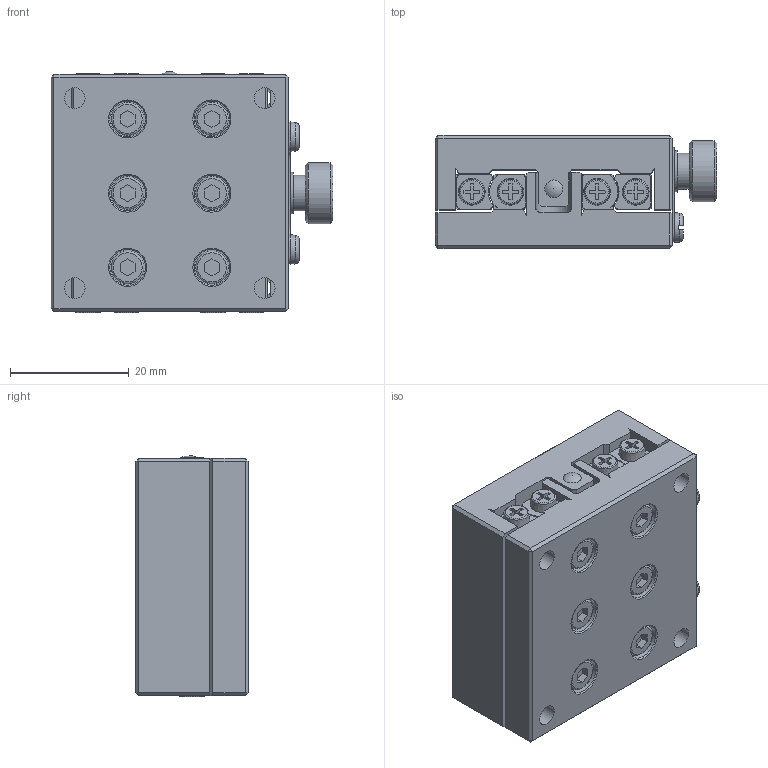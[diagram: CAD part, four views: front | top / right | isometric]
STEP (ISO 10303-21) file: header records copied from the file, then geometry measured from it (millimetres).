
FILE_DESCRIPTION(/* description */ ('STEP AP214'),/* implementation_level */ '2;1');
FILE_NAME(/* name */ 'NH2-40_40-AL-MF',/* time_stamp */ '2025-04-24T11:44:39+02:00',/* author */ ('License CC BY-ND 4.0'),/* organization */ ('CADENAS'),/* preprocessor_version */ 'ST-DEVELOPER v19.3',/* originating_system */ 'PARTsolutions',/* authorisation */ ' ');
FILE_SCHEMA (('AUTOMOTIVE_DESIGN {1 0 10303 214 3 1 1}'));
Length unit declared in the file: millimetre
Products named in the file (5): NH2-40/40-AL-MF; NH2-40/40-AL-MF_d; NH2-40/40-AL-OF_b; NH2-40/40-AL-OF_b2; NH2-40/40-AL-OF_c
Assembly tree (4 placements, depth 2):
  NH2-40/40-AL-MF
    NH2-40/40-AL-MF_d
    NH2-40/40-AL-OF_b
    NH2-40/40-AL-OF_b2
    NH2-40/40-AL-OF_c
Bounding box: 47.5 x 19 x 40.6 mm (x, y, z)
Volume: 27608.3 mm3; surface area: 15375.7 mm2
Topology: 3 solids, 3 shells, 584 faces, 1485 edges, 959 vertices
Faces by surface type: plane 410, cylinder 123, cone 27, torus 22, sphere 2
Full cylindrical faces by diameter (mm): 2 x2, 2.1 x2, 2.459 x9, 2.46 x1, 3 x2, 3.4 x1, 3.5 x4, 5.5 x10, 6 x11, 6.4 x4, 7 x1, 10.3 x1
Entity records: 17012 total; most frequent: CARTESIAN_POINT 2955, DIRECTION 2899, ORIENTED_EDGE 2730, EDGE_CURVE 1365, LINE 975, VECTOR 975, AXIS2_PLACEMENT_3D 962, VERTEX_POINT 936
